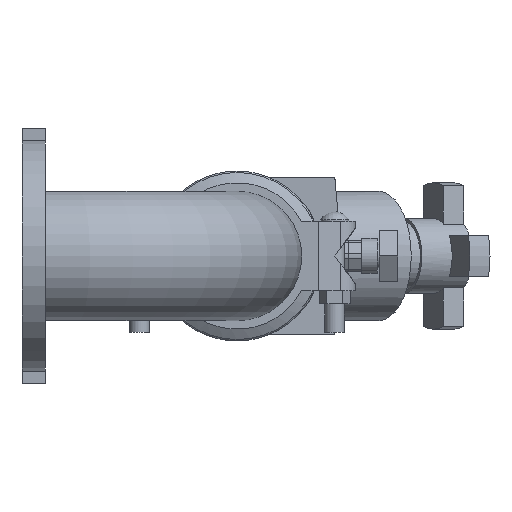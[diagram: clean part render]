
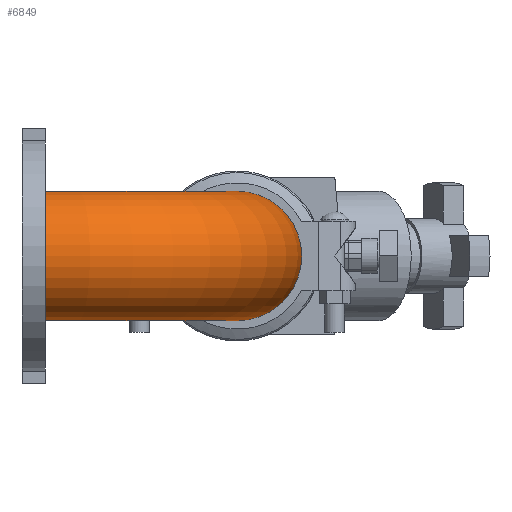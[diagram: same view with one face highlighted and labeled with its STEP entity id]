
A CAD part, front view. The second image highlights one B-rep face of the part: STEP entity #6849.
In plain terms, the highlighted toroidal (fillet/blend) face has major radius 209.55 mm and minor radius 70.65 mm.
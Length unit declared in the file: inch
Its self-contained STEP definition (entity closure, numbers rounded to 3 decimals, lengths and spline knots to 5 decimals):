
#66=TOROIDAL_SURFACE('',#7799,8.25,2.7815);
#800=FACE_OUTER_BOUND('',#1228,.T.);
#1228=EDGE_LOOP('',(#5972,#5973,#5974,#5975));
#2572=CIRCLE('',#7784,2.7815);
#2575=CIRCLE('',#7788,2.7815);
#2585=CIRCLE('',#7800,5.4685);
#3203=VERTEX_POINT('',#12307);
#3206=VERTEX_POINT('',#12314);
#4126=EDGE_CURVE('',#3203,#3203,#2572,.T.);
#4129=EDGE_CURVE('',#3206,#3206,#2575,.T.);
#4139=EDGE_CURVE('',#3206,#3203,#2585,.T.);
#5972=ORIENTED_EDGE('',*,*,#4129,.T.);
#5973=ORIENTED_EDGE('',*,*,#4139,.T.);
#5974=ORIENTED_EDGE('',*,*,#4126,.F.);
#5975=ORIENTED_EDGE('',*,*,#4139,.F.);
#6849=ADVANCED_FACE('',(#800),#66,.T.);
#7784=AXIS2_PLACEMENT_3D('',#12308,#9770,#9771);
#7788=AXIS2_PLACEMENT_3D('',#12315,#9778,#9779);
#7799=AXIS2_PLACEMENT_3D('',#12334,#9800,#9801);
#7800=AXIS2_PLACEMENT_3D('',#12335,#9802,#9803);
#9770=DIRECTION('center_axis',(0.,-1.,0.));
#9771=DIRECTION('ref_axis',(-1.,0.,0.));
#9778=DIRECTION('center_axis',(-1.,0.,0.));
#9779=DIRECTION('ref_axis',(0.,1.,0.));
#9800=DIRECTION('center_axis',(0.,0.,-1.));
#9801=DIRECTION('ref_axis',(-1.,0.,0.));
#9802=DIRECTION('center_axis',(0.,0.,1.));
#9803=DIRECTION('ref_axis',(-1.,0.,0.));
#12307=CARTESIAN_POINT('',(2.7815,1.,0.));
#12308=CARTESIAN_POINT('Origin',(0.,1.,0.));
#12314=CARTESIAN_POINT('',(8.25,6.4685,0.));
#12315=CARTESIAN_POINT('Origin',(8.25,9.25,0.));
#12334=CARTESIAN_POINT('Origin',(8.25,1.,0.));
#12335=CARTESIAN_POINT('Origin',(8.25,1.,0.));
